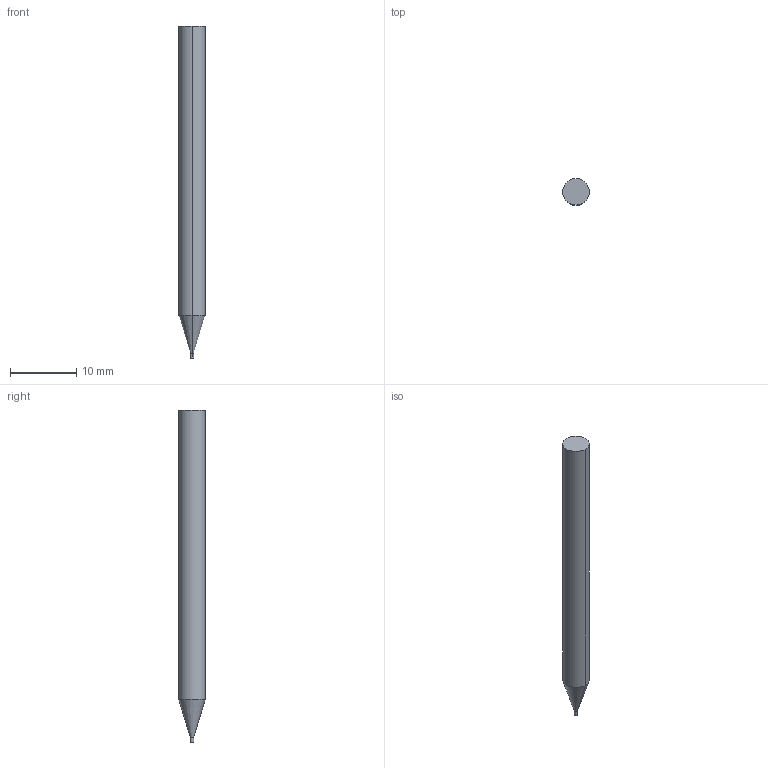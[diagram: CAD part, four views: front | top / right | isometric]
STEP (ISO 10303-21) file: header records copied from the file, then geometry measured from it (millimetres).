
FILE_DESCRIPTION((' '),'2;1');
FILE_NAME( '3MVSM0050AH.stp', '2026-01-21T19:26:54', (' '), ('--- Datakit www.datakit.com---'), ' Datakit CrossCadWare V2025.4 Sep 19 2025', 'Mastercam 2027', ' ');
FILE_SCHEMA(('AUTOMOTIVE_DESIGN { 1 0 10303 214 1 1 1 1 }'));
Length unit declared in the file: inch
Products named in the file (1): 3MVSM0050AH
Bounding box: 4 x 4 x 50 mm (x, y, z)
Volume: 574.6 mm3; surface area: 603.3 mm2
Topology: 1 solids, 1 shells, 8 faces, 14 edges, 8 vertices
Faces by surface type: cylinder 4, plane 2, cone 2
Entity records: 264 total; most frequent: DIRECTION 48, CARTESIAN_POINT 35, ORIENTED_EDGE 28, AXIS2_PLACEMENT_3D 21, EDGE_CURVE 14, VERTEX_POINT 8, CIRCLE 8, EDGE_LOOP 8
